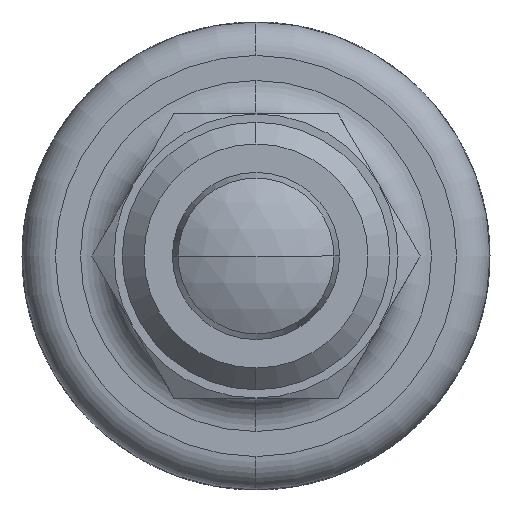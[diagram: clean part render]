
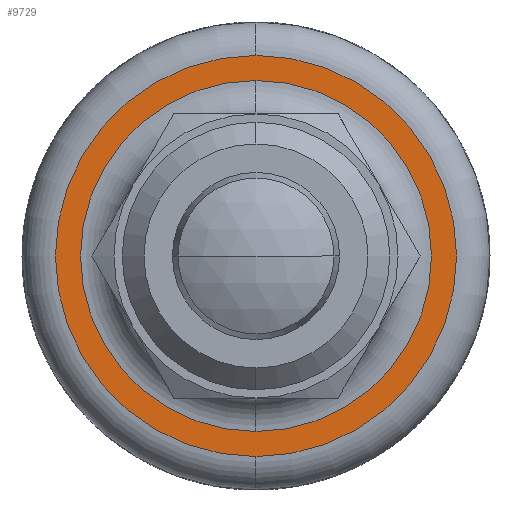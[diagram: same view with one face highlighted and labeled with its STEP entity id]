
A CAD part, front view. The second image highlights one B-rep face of the part: STEP entity #9729.
In plain terms, the highlighted planar face has unit normal (0, -1, 0).
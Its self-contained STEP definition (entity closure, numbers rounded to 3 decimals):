
#1792 = VERTEX_POINT ( 'NONE', #5119 ) ;
#1794 = EDGE_CURVE ( 'NONE', #1797, #1792, #5116, .T. ) ;
#1797 = VERTEX_POINT ( 'NONE', #5170 ) ;
#1962 = VERTEX_POINT ( 'NONE', #5738 ) ;
#1963 = EDGE_CURVE ( 'NONE', #1962, #2022, #5737, .T. ) ;
#2022 = VERTEX_POINT ( 'NONE', #5740 ) ;
#5112 = DIRECTION ( 'NONE',  ( 0., 0., 1. ) ) ;
#5113 = DIRECTION ( 'NONE',  ( 0., -1., 0. ) ) ;
#5114 = CARTESIAN_POINT ( 'NONE',  ( 0., 16., 0. ) ) ;
#5115 = AXIS2_PLACEMENT_3D ( 'NONE', #5114, #5113, #5112 ) ;
#5116 = CIRCLE ( 'NONE', #5115, 12. ) ;
#5119 = CARTESIAN_POINT ( 'NONE',  ( 0., 16., 12. ) ) ;
#5170 = CARTESIAN_POINT ( 'NONE',  ( 0., 16., -12. ) ) ;
#5733 = DIRECTION ( 'NONE',  ( 0., 0., 1. ) ) ;
#5734 = DIRECTION ( 'NONE',  ( 0., 1., 0. ) ) ;
#5735 = CARTESIAN_POINT ( 'NONE',  ( 0., 16., 0. ) ) ;
#5736 = AXIS2_PLACEMENT_3D ( 'NONE', #5735, #5734, #5733 ) ;
#5737 = CIRCLE ( 'NONE', #5736, 10.5 ) ;
#5738 = CARTESIAN_POINT ( 'NONE',  ( 0., 16., -10.5 ) ) ;
#5740 = CARTESIAN_POINT ( 'NONE',  ( 0., 16., 10.5 ) ) ;
#7015 = DIRECTION ( 'NONE',  ( 0., 0., 1. ) ) ;
#7016 = DIRECTION ( 'NONE',  ( 0., -1., 0. ) ) ;
#7017 = CARTESIAN_POINT ( 'NONE',  ( 0., 16., 0. ) ) ;
#7018 = AXIS2_PLACEMENT_3D ( 'NONE', #7017, #7016, #7015 ) ;
#7019 = CIRCLE ( 'NONE', #7018, 12. ) ;
#7447 = DIRECTION ( 'NONE',  ( 0., 0., 1. ) ) ;
#7448 = DIRECTION ( 'NONE',  ( 0., 1., 0. ) ) ;
#7449 = CARTESIAN_POINT ( 'NONE',  ( 0., 16., 0. ) ) ;
#7451 = AXIS2_PLACEMENT_3D ( 'NONE', #7449, #7448, #7447 ) ;
#7452 = PLANE ( 'NONE',  #7451 ) ;
#7453 = FACE_OUTER_BOUND ( 'NONE', #9502, .T. ) ;
#7454 = FACE_BOUND ( 'NONE', #9726, .T. ) ;
#7456 = DIRECTION ( 'NONE',  ( 0., 0., 1. ) ) ;
#7457 = DIRECTION ( 'NONE',  ( 0., 1., 0. ) ) ;
#7458 = CARTESIAN_POINT ( 'NONE',  ( 0., 16., 0. ) ) ;
#7459 = AXIS2_PLACEMENT_3D ( 'NONE', #7458, #7457, #7456 ) ;
#7460 = CIRCLE ( 'NONE', #7459, 10.5 ) ;
#9502 = EDGE_LOOP ( 'NONE', ( #9519, #9520 ) ) ;
#9516 = EDGE_CURVE ( 'NONE', #1792, #1797, #7019, .T. ) ;
#9519 = ORIENTED_EDGE ( 'NONE', *, *, #9516, .T. ) ;
#9520 = ORIENTED_EDGE ( 'NONE', *, *, #1794, .T. ) ;
#9725 = EDGE_CURVE ( 'NONE', #2022, #1962, #7460, .T. ) ;
#9726 = EDGE_LOOP ( 'NONE', ( #9728, #9730 ) ) ;
#9728 = ORIENTED_EDGE ( 'NONE', *, *, #9725, .T. ) ;
#9729 = ADVANCED_FACE ( 'NONE', ( #7454, #7453 ), #7452, .F. ) ;
#9730 = ORIENTED_EDGE ( 'NONE', *, *, #1963, .T. ) ;
